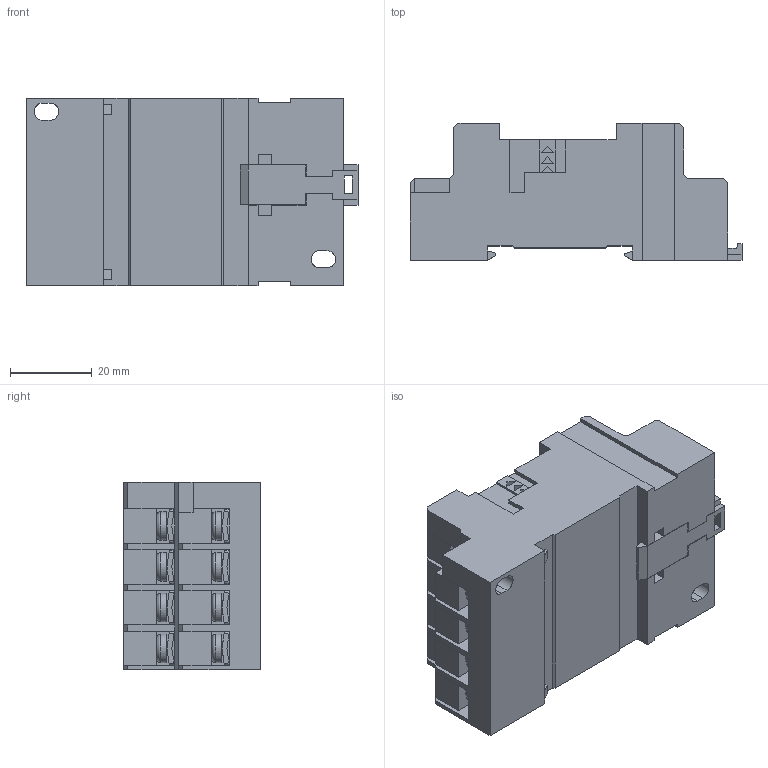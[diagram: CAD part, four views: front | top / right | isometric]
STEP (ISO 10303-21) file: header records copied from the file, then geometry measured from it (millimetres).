
FILE_DESCRIPTION(('STEP AP214'),'2;1');
FILE_NAME('9674_catalogo.stp','2012-01-24T13:48:20',(''),(''),'2007.1.106','THINKDESIGN','');
FILE_SCHEMA(('AUTOMOTIVE_DESIGN'));
Products named in the file (1): None
Bounding box: 81.35 x 33.5 x 46 mm (x, y, z)
Surface area: 29421.4 mm2 (no closed solid volume)
Topology: 0 solids, 0 shells, 803 faces, 4614 edges, 4614 vertices
Faces by surface type: plane 715, cylinder 74, bspline 14
Full cylindrical faces by diameter (mm): 3.5 x14, 5 x14, 7 x14
Entity records: 45941 total; most frequent: CARTESIAN_POINT 12667, DIRECTION 5842, COMPOSITE_CURVE_SEGMENT 4670, TRIMMED_CURVE 4018, VECTOR 3772, LINE 3772, AXIS2_PLACEMENT_3D 1035, OUTER_BOUNDARY_CURVE 803
